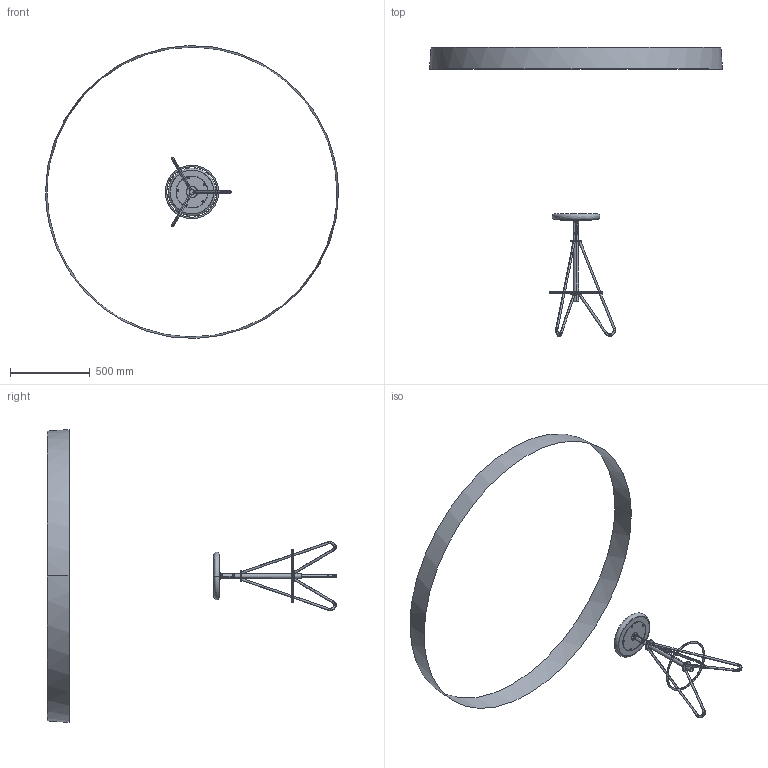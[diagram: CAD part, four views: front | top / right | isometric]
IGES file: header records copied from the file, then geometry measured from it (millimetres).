
Start section: SolidWorks IGES file using analytic representation for surfaces
Global section: file name: F:\ADICO_ANDRE\ADICO_2014\HOTELARIA\INDOOR\01_14\bancos\274-B\versão madeira\para envio EMAIL\274B_madeira_3D.IGS; native system: SolidWorks 2012; preprocessor: SolidWorks 2012; author: andre; date: 160215.175059; units: millimetre
Bounding box: 1840.64 x 1816 x 1839.96 mm (x, y, z)
Surface area: 1250824.2 mm2 (no closed solid volume)
Topology: 0 solids, 0 shells, 421 faces, 6434 edges, 6402 vertices
Faces by surface type: bspline 217, revolution 204
